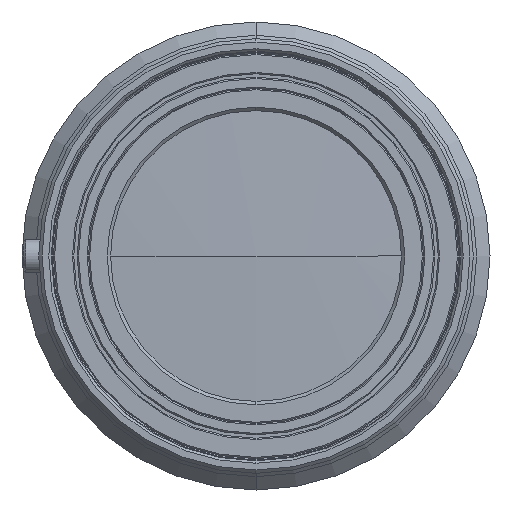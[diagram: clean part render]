
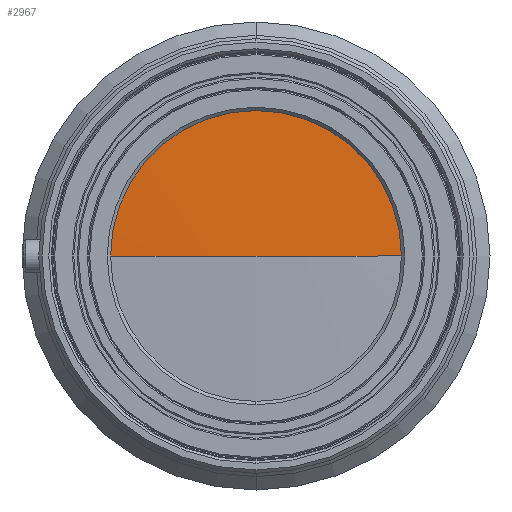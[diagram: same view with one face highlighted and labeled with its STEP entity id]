
A CAD part, left-side view. The second image highlights one B-rep face of the part: STEP entity #2967.
In plain terms, the highlighted spherical face has radius 421 mm.
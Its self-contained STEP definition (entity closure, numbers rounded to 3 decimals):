
#37 = CARTESIAN_POINT ( 'NONE',  ( -538.778, -21.75, 0. ) ) ;
#49 = AXIS2_PLACEMENT_3D ( 'NONE', #2209, #2197, #1163 ) ;
#64 = DIRECTION ( 'NONE',  ( 1., 0., 0. ) ) ;
#173 = EDGE_CURVE ( 'NONE', #1457, #2826, #729, .T. ) ;
#275 = AXIS2_PLACEMENT_3D ( 'NONE', #3267, #1207, #425 ) ;
#425 = DIRECTION ( 'NONE',  ( -1., 0., 0. ) ) ;
#561 = CARTESIAN_POINT ( 'NONE',  ( -538.778, 0., 0. ) ) ;
#729 = CIRCLE ( 'NONE', #1395, 21.75 ) ;
#1070 = DIRECTION ( 'NONE',  ( 0., 0., -1. ) ) ;
#1163 = DIRECTION ( 'NONE',  ( 0., 1., 0. ) ) ;
#1207 = DIRECTION ( 'NONE',  ( 0., 0., -1. ) ) ;
#1280 = FACE_OUTER_BOUND ( 'NONE', #2043, .T. ) ;
#1307 = CARTESIAN_POINT ( 'NONE',  ( -539.34, 0., 0. ) ) ;
#1372 = SPHERICAL_SURFACE ( 'NONE', #49, 421. ) ;
#1395 = AXIS2_PLACEMENT_3D ( 'NONE', #561, #64, #1070 ) ;
#1432 = DIRECTION ( 'NONE',  ( 0., 0., -1. ) ) ;
#1445 = CARTESIAN_POINT ( 'NONE',  ( -118.34, 0., 0. ) ) ;
#1457 = VERTEX_POINT ( 'NONE', #2787 ) ;
#1559 = AXIS2_PLACEMENT_3D ( 'NONE', #1445, #3240, #1706 ) ;
#1623 = ORIENTED_EDGE ( 'NONE', *, *, #2269, .F. ) ;
#1706 = DIRECTION ( 'NONE',  ( 0., -1., 0. ) ) ;
#1882 = VERTEX_POINT ( 'NONE', #2178 ) ;
#1990 = CIRCLE ( 'NONE', #275, 421. ) ;
#2043 = EDGE_LOOP ( 'NONE', ( #2074, #2989, #3330, #1623 ) ) ;
#2074 = ORIENTED_EDGE ( 'NONE', *, *, #3056, .F. ) ;
#2136 = AXIS2_PLACEMENT_3D ( 'NONE', #2224, #2738, #1432 ) ;
#2178 = CARTESIAN_POINT ( 'NONE',  ( -538.778, 21.75, 0. ) ) ;
#2197 = DIRECTION ( 'NONE',  ( 0., 0., 1. ) ) ;
#2209 = CARTESIAN_POINT ( 'NONE',  ( -118.34, 0., 0. ) ) ;
#2224 = CARTESIAN_POINT ( 'NONE',  ( -538.778, 0., 0. ) ) ;
#2269 = EDGE_CURVE ( 'NONE', #1882, #1457, #2793, .T. ) ;
#2377 = EDGE_CURVE ( 'NONE', #2730, #2826, #3023, .T. ) ;
#2730 = VERTEX_POINT ( 'NONE', #1307 ) ;
#2738 = DIRECTION ( 'NONE',  ( 1., 0., 0. ) ) ;
#2787 = CARTESIAN_POINT ( 'NONE',  ( -538.778, 0., 21.75 ) ) ;
#2793 = CIRCLE ( 'NONE', #2136, 21.75 ) ;
#2826 = VERTEX_POINT ( 'NONE', #37 ) ;
#2967 = ADVANCED_FACE ( 'NONE', ( #1280 ), #1372, .T. ) ;
#2989 = ORIENTED_EDGE ( 'NONE', *, *, #2377, .T. ) ;
#3023 = CIRCLE ( 'NONE', #1559, 421. ) ;
#3056 = EDGE_CURVE ( 'NONE', #2730, #1882, #1990, .T. ) ;
#3240 = DIRECTION ( 'NONE',  ( 0., 0., 1. ) ) ;
#3267 = CARTESIAN_POINT ( 'NONE',  ( -118.34, 0., 0. ) ) ;
#3330 = ORIENTED_EDGE ( 'NONE', *, *, #173, .F. ) ;
